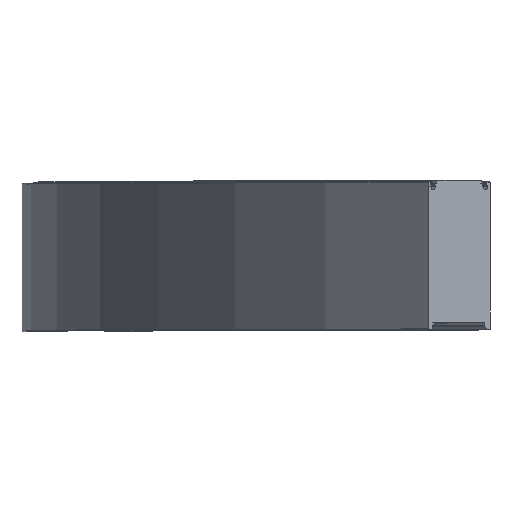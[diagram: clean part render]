
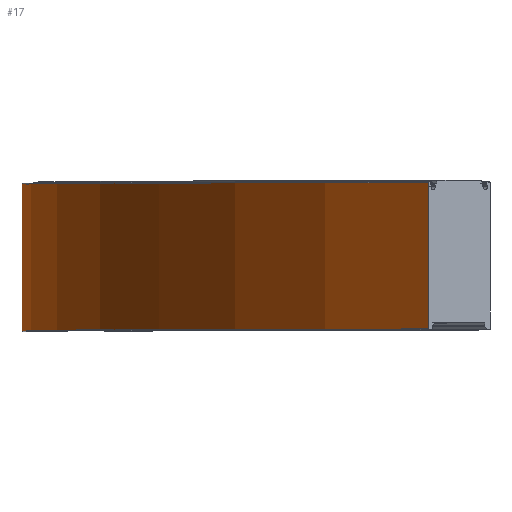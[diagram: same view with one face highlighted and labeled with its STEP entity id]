
A CAD part, top view. The second image highlights one B-rep face of the part: STEP entity #17.
In plain terms, the highlighted cylindrical face has radius 748.5 mm (diameter 1497 mm), a partial arc.
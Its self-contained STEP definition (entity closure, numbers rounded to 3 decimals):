
#7 = ORIENTED_EDGE ( 'NONE', *, *, #220, .F. ) ;
#17 = ADVANCED_FACE ( 'NONE', ( #1279 ), #1260, .T. ) ;
#101 = EDGE_CURVE ( 'NONE', #1361, #1275, #1602, .T. ) ;
#131 = EDGE_CURVE ( 'NONE', #1409, #1275, #253, .T. ) ;
#143 = AXIS2_PLACEMENT_3D ( 'NONE', #874, #338, #1348 ) ;
#200 = CARTESIAN_POINT ( 'NONE',  ( -23.5, 79.5, 0. ) ) ;
#220 = EDGE_CURVE ( 'NONE', #437, #1409, #1455, .T. ) ;
#253 = LINE ( 'NONE', #1470, #473 ) ;
#325 = DIRECTION ( 'NONE',  ( 0., -1., 0. ) ) ;
#327 = ORIENTED_EDGE ( 'NONE', *, *, #131, .F. ) ;
#338 = DIRECTION ( 'NONE',  ( 0., 1., 0. ) ) ;
#378 = DIRECTION ( 'NONE',  ( -1., 0., 0. ) ) ;
#437 = VERTEX_POINT ( 'NONE', #566 ) ;
#473 = VECTOR ( 'NONE', #974, 1000. ) ;
#551 = VECTOR ( 'NONE', #325, 1000. ) ;
#559 = EDGE_CURVE ( 'NONE', #437, #1361, #1428, .T. ) ;
#566 = CARTESIAN_POINT ( 'NONE',  ( -23.5, 79.5, 0. ) ) ;
#596 = CARTESIAN_POINT ( 'NONE',  ( 195.731, 0.5, 529.269 ) ) ;
#617 = DIRECTION ( 'NONE',  ( 0., 1., 0. ) ) ;
#629 = AXIS2_PLACEMENT_3D ( 'NONE', #1197, #692, #1460 ) ;
#692 = DIRECTION ( 'NONE',  ( 0., 1., 0. ) ) ;
#784 = CARTESIAN_POINT ( 'NONE',  ( 195.731, 79.5, 529.269 ) ) ;
#818 = EDGE_LOOP ( 'NONE', ( #832, #327, #7, #1504 ) ) ;
#832 = ORIENTED_EDGE ( 'NONE', *, *, #101, .T. ) ;
#874 = CARTESIAN_POINT ( 'NONE',  ( 725., 0.5, 0. ) ) ;
#894 = CARTESIAN_POINT ( 'NONE',  ( 725., 79.5, 0. ) ) ;
#974 = DIRECTION ( 'NONE',  ( 0., -1., 0. ) ) ;
#1149 = CARTESIAN_POINT ( 'NONE',  ( -23.5, 0.5, 0. ) ) ;
#1197 = CARTESIAN_POINT ( 'NONE',  ( 725., 0., 0. ) ) ;
#1260 = CYLINDRICAL_SURFACE ( 'NONE', #629, 748.5 ) ;
#1275 = VERTEX_POINT ( 'NONE', #596 ) ;
#1279 = FACE_OUTER_BOUND ( 'NONE', #818, .T. ) ;
#1282 = AXIS2_PLACEMENT_3D ( 'NONE', #894, #617, #378 ) ;
#1348 = DIRECTION ( 'NONE',  ( -1., 0., 0. ) ) ;
#1361 = VERTEX_POINT ( 'NONE', #1149 ) ;
#1409 = VERTEX_POINT ( 'NONE', #784 ) ;
#1428 = LINE ( 'NONE', #200, #551 ) ;
#1455 = CIRCLE ( 'NONE', #1282, 748.5 ) ;
#1460 = DIRECTION ( 'NONE',  ( 0., 0., 1. ) ) ;
#1470 = CARTESIAN_POINT ( 'NONE',  ( 195.731, 79.5, 529.269 ) ) ;
#1504 = ORIENTED_EDGE ( 'NONE', *, *, #559, .T. ) ;
#1602 = CIRCLE ( 'NONE', #143, 748.5 ) ;
